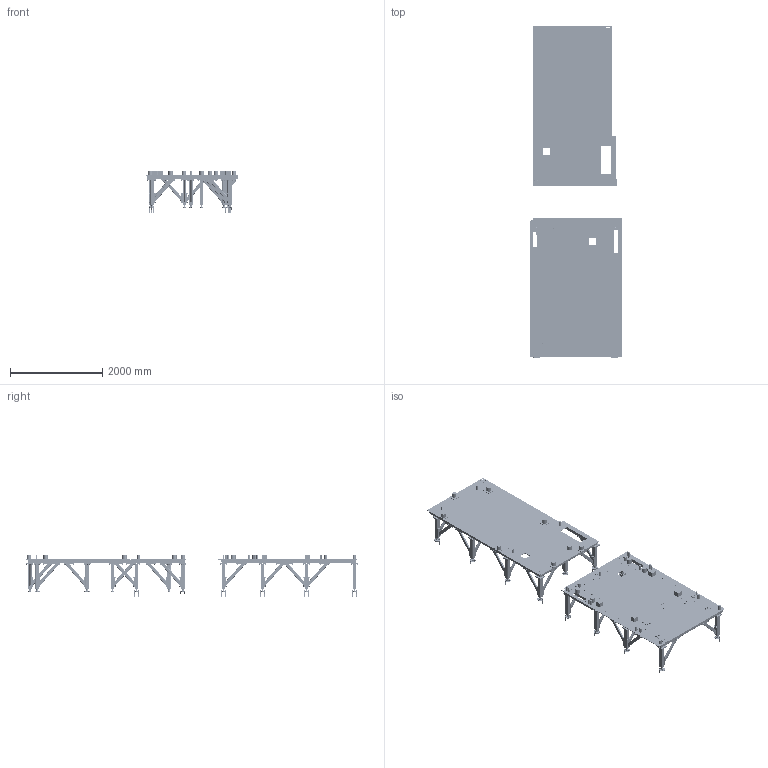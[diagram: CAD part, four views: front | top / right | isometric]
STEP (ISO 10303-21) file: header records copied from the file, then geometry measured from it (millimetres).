
FILE_DESCRIPTION (( 'STEP AP214' ), '1' );
FILE_NAME ('PIC-LSA201-00.STEP', '2025-09-13T17:37:35', ( '' ), ( '' ), 'SwSTEP 2.0', 'SolidWorks 2017', '' );
FILE_SCHEMA (( 'AUTOMOTIVE_DESIGN' ));
Length unit declared in the file: millimetre
Products named in the file (41): z_NUT_H_NUT Hm M 36; Z-EFF-CLAMP; LSA201-EQUIPEMENT-ESQ2; PIC-LSA201-06_1<Brut d''usinage>; z_NUT_H_NUT H M 12; Z-din_en_24017_m36x140; PIC-LSA201-05_2<Brut d''usinage>; Z-M10 assy_M16; LSA201-PIED-ASSY_2; z_Screw_H_SCREW H M18x100-42; LSA201-EQUIPEMENT-ESQ1; z_Screw_H_SCREW H M12x40-30; Z-M10 assy_M18; z_Washer_WASHER M 12; PIC-LSA201-02_D‚faut<Brut d''usinage>; LSA201-EQUIPEMENT-ESQ3; LSA201-TOLE; LSA201-PIED-ASSY_2 SPE; z_Washer_WASHER M 16; FAU-LSA201-03; z_Screw_H_SCREW H M16x60-38; Z-Tige filetée - M12_M12x200; PIC-LSA201-05_2 SPE<Brut d''usinage>; LSA201-PIED-ASSY_1; PIC-LSA201-08_DWG; PIC-LSA201-08; z_Screw_H_SCREW H M4x20-14; PIC-LSA201-05_1<Brut d''usinage>; LSA201-EQUIPEMENT_BOX; LSA201-PIED-ASSY_3; z_Washer_WASHER M 10; z_Washer_WASHER M 18; PIC-LSA201-05_3<Brut d''usinage>; z_Screw_H_SCREW H M10x30-26; PIC-LSA201-07_1; Z-LSA201-EQUIPEMENT; Z-M10 assy_M12; Z-Hilti Cheville M12; PIC-LSA201-00; Z-M12 ASSY-2_150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
Assembly tree (439 placements, depth 4):
  LSA201-EQUIPEMENT-ESQ2
  LSA201-EQUIPEMENT-ESQ1
  PIC-LSA201-00
    LSA201-EQUIPEMENT_BOX
      LSA201-TOLE
      LSA201-EQUIPEMENT-ESQ3
      Z-M10 assy_M12  x24
        z_Screw_H_SCREW H M12x40-30
        z_Washer_WASHER M 12
      Z-M10 assy_M18  x4
        z_Screw_H_SCREW H M18x100-42
        z_Washer_WASHER M 18
      Z-M10 assy_M16  x7
        z_Screw_H_SCREW H M16x60-38
        z_Washer_WASHER M 16
      z_Screw_H_SCREW H M4x20-14  x43
      Z-LSA201-EQUIPEMENT  x43
    PIC-LSA201-02_D‚faut<Brut d''usinage>
    LSA201-PIED-ASSY_2  x8
      PIC-LSA201-05_1<Brut d''usinage>
      Z-M10 assy
        z_Screw_H_SCREW H M10x30-26
        z_Washer_WASHER M 10
      PIC-LSA201-06_1<Brut d''usinage>
      PIC-LSA201-08_DWG
        Z-din_en_24017_m36x140
        PIC-LSA201-08
        z_NUT_H_NUT Hm M 36
    LSA201-PIED-ASSY_1  x7
      PIC-LSA201-05_2<Brut d''usinage>
      Z-M10 assy
        z_Screw_H_SCREW H M10x30-26
        z_Washer_WASHER M 10
      PIC-LSA201-06_1<Brut d''usinage>
      PIC-LSA201-08_DWG
        Z-din_en_24017_m36x140
        PIC-LSA201-08
        z_NUT_H_NUT Hm M 36
    LSA201-PIED-ASSY_3  x2
      PIC-LSA201-05_3<Brut d''usinage>
      Z-M10 assy
        z_Screw_H_SCREW H M10x30-26
        z_Washer_WASHER M 10
      PIC-LSA201-06_1<Brut d''usinage>
      PIC-LSA201-08_DWG
        Z-din_en_24017_m36x140
        PIC-LSA201-08
        z_NUT_H_NUT Hm M 36
    LSA201-PIED-ASSY_2 SPE  x3
      PIC-LSA201-05_2 SPE<Brut d''usinage>
      Z-M10 assy
        z_Screw_H_SCREW H M10x30-26
        z_Washer_WASHER M 10
      PIC-LSA201-06_1<Brut d''usinage>
      PIC-LSA201-08_DWG
        Z-din_en_24017_m36x140
        PIC-LSA201-08
        z_NUT_H_NUT Hm M 36
    Z-M12 ASSY-2_150  x6
      Z-Tige filetée - M12_M12x200
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Bounding box: 2010 x 7180 x 915.5 mm (x, y, z)
Volume: 245120422.7 mm3; surface area: 108214012.5 mm2
Topology: 1697 solids, 1697 shells, 23254 faces, 54798 edges, 35652 vertices
Faces by surface type: plane 10468, cylinder 8988, cone 3750, bspline 48
Entity records: 211006 total; most frequent: DIRECTION 33065, CARTESIAN_POINT 33033, ORIENTED_EDGE 29534, EDGE_CURVE 14767, AXIS2_PLACEMENT_3D 12619, VERTEX_POINT 9739, EDGE_LOOP 8176, VECTOR 7827
